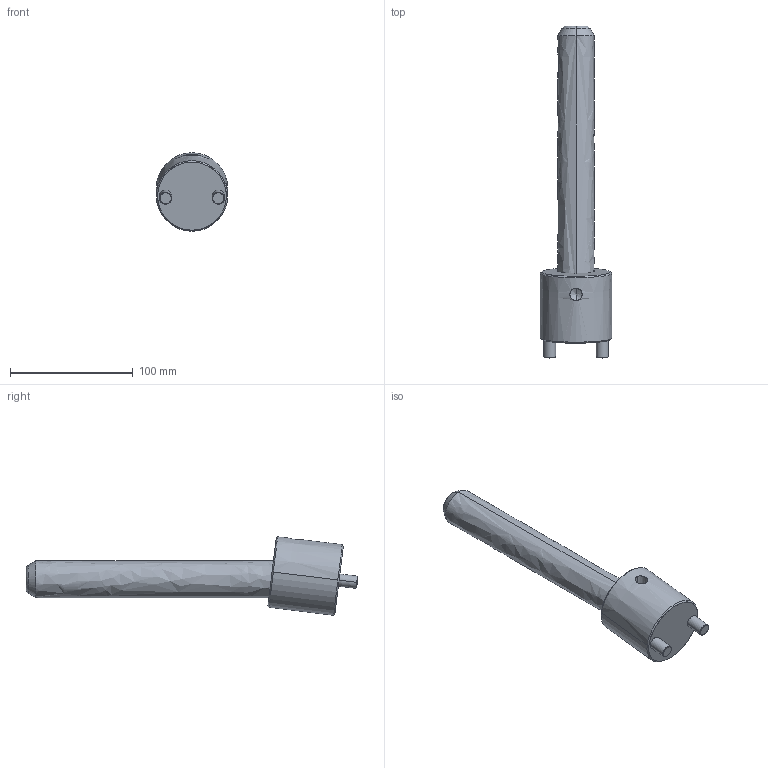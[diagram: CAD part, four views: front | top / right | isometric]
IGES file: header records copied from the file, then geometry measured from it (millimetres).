
Start section: START RECORD GO HERE.
Global section: file name: CI0730200.igs; native system: DASSAULT SYSTEMES CATIA V5 R20 - www.3ds.com; preprocessor: CATIA Version 5 Release 20 ; author: r.borello; organization: CFTORINO; date: 20190624.093533; units: millimetre
Bounding box: 58 x 270.76 x 64.03 mm (x, y, z)
Surface area: 45007.1 mm2 (no closed solid volume)
Topology: 0 solids, 0 shells, 39 faces, 162 edges, 160 vertices
Faces by surface type: revolution 32, plane 7
